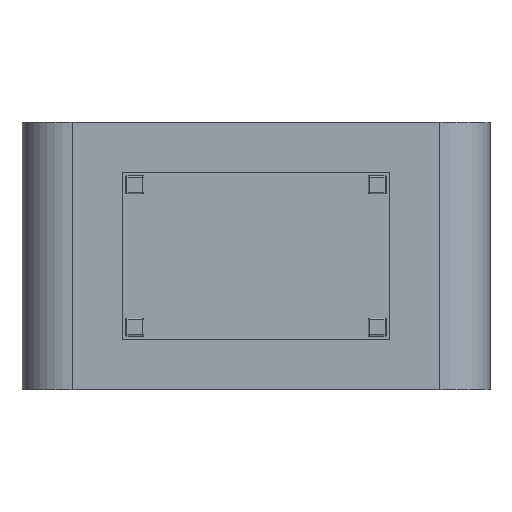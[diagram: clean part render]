
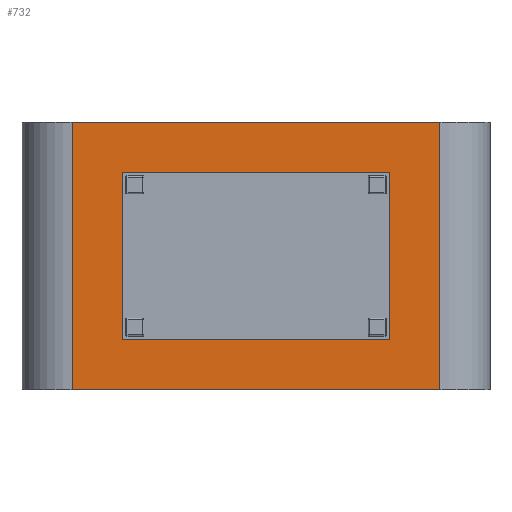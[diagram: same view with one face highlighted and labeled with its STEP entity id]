
A CAD part, front view. The second image highlights one B-rep face of the part: STEP entity #732.
In plain terms, the highlighted planar face has unit normal (0, -1, 0).
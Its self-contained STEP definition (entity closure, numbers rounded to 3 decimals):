
#7 = CARTESIAN_POINT ( 'NONE',  ( -550., -150., 400. ) ) ;
#130 = CARTESIAN_POINT ( 'NONE',  ( -550., -150., 400. ) ) ;
#131 = CARTESIAN_POINT ( 'NONE',  ( -550., -150., -400. ) ) ;
#246 = ORIENTED_EDGE ( 'NONE', *, *, #936, .F. ) ;
#420 = LINE ( 'NONE', #3801, #671 ) ;
#425 = CARTESIAN_POINT ( 'NONE',  ( -550., -150., 400. ) ) ;
#503 = AXIS2_PLACEMENT_3D ( 'NONE', #1022, #3761, #964 ) ;
#669 = VERTEX_POINT ( 'NONE', #3089 ) ;
#671 = VECTOR ( 'NONE', #2491, 1000. ) ;
#732 = ADVANCED_FACE ( 'NONE', ( #1277 ), #2507, .F. ) ;
#838 = DIRECTION ( 'NONE',  ( 1., 0., 0. ) ) ;
#846 = VERTEX_POINT ( 'NONE', #131 ) ;
#936 = EDGE_CURVE ( 'NONE', #2816, #669, #1190, .T. ) ;
#964 = DIRECTION ( 'NONE',  ( -1., 0., 0. ) ) ;
#1022 = CARTESIAN_POINT ( 'NONE',  ( -550., -150., 400. ) ) ;
#1053 = VECTOR ( 'NONE', #2749, 1000. ) ;
#1104 = VERTEX_POINT ( 'NONE', #3202 ) ;
#1190 = LINE ( 'NONE', #7, #2782 ) ;
#1277 = FACE_OUTER_BOUND ( 'NONE', #2769, .T. ) ;
#1496 = CARTESIAN_POINT ( 'NONE',  ( -550., -150., -400. ) ) ;
#1724 = LINE ( 'NONE', #130, #2545 ) ;
#2050 = DIRECTION ( 'NONE',  ( 0., 0., -1. ) ) ;
#2491 = DIRECTION ( 'NONE',  ( 0., 0., -1. ) ) ;
#2507 = PLANE ( 'NONE',  #503 ) ;
#2545 = VECTOR ( 'NONE', #2050, 1000. ) ;
#2599 = ORIENTED_EDGE ( 'NONE', *, *, #3104, .T. ) ;
#2701 = ORIENTED_EDGE ( 'NONE', *, *, #3201, .F. ) ;
#2749 = DIRECTION ( 'NONE',  ( 1., 0., 0. ) ) ;
#2769 = EDGE_LOOP ( 'NONE', ( #2599, #2701, #246, #3917 ) ) ;
#2782 = VECTOR ( 'NONE', #838, 1000. ) ;
#2816 = VERTEX_POINT ( 'NONE', #425 ) ;
#3089 = CARTESIAN_POINT ( 'NONE',  ( 550., -150., 400. ) ) ;
#3104 = EDGE_CURVE ( 'NONE', #846, #1104, #3418, .T. ) ;
#3201 = EDGE_CURVE ( 'NONE', #669, #1104, #420, .T. ) ;
#3202 = CARTESIAN_POINT ( 'NONE',  ( 550., -150., -400. ) ) ;
#3275 = EDGE_CURVE ( 'NONE', #2816, #846, #1724, .T. ) ;
#3418 = LINE ( 'NONE', #1496, #1053 ) ;
#3761 = DIRECTION ( 'NONE',  ( 0., 1., 0. ) ) ;
#3801 = CARTESIAN_POINT ( 'NONE',  ( 550., -150., 400. ) ) ;
#3917 = ORIENTED_EDGE ( 'NONE', *, *, #3275, .T. ) ;
